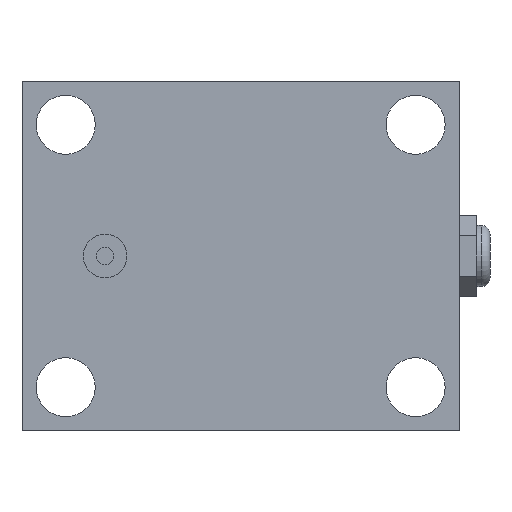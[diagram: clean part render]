
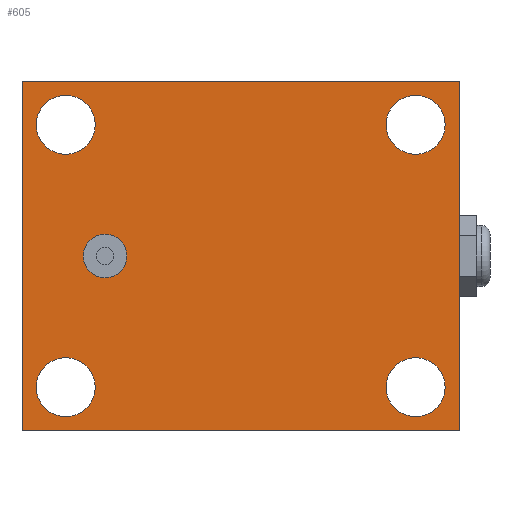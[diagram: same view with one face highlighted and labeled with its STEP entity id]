
A CAD part, front view. The second image highlights one B-rep face of the part: STEP entity #605.
In plain terms, the highlighted planar face has unit normal (0, -1, 0).
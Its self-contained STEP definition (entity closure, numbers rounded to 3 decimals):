
#13 = DIRECTION ( 'NONE',  ( 0., 0., 1. ) ) ;
#15 = EDGE_CURVE ( 'NONE', #697, #359, #1528, .T. ) ;
#24 = CIRCLE ( 'NONE', #483, 6.75 ) ;
#29 = CARTESIAN_POINT ( 'NONE',  ( -31., 0., 0. ) ) ;
#35 = DIRECTION ( 'NONE',  ( 0., 0., 1. ) ) ;
#50 = AXIS2_PLACEMENT_3D ( 'NONE', #1057, #409, #35 ) ;
#70 = EDGE_CURVE ( 'NONE', #955, #969, #1454, .T. ) ;
#77 = EDGE_CURVE ( 'NONE', #359, #1228, #1066, .T. ) ;
#78 = EDGE_LOOP ( 'NONE', ( #354, #1163 ) ) ;
#103 = AXIS2_PLACEMENT_3D ( 'NONE', #118, #1380, #1004 ) ;
#108 = CIRCLE ( 'NONE', #390, 5. ) ;
#118 = CARTESIAN_POINT ( 'NONE',  ( 40., 0., 30. ) ) ;
#121 = VERTEX_POINT ( 'NONE', #351 ) ;
#132 = AXIS2_PLACEMENT_3D ( 'NONE', #363, #498, #239 ) ;
#144 = EDGE_CURVE ( 'NONE', #1228, #1049, #610, .T. ) ;
#163 = DIRECTION ( 'NONE',  ( 0., 0., -1. ) ) ;
#175 = DIRECTION ( 'NONE',  ( 0., 1., 0. ) ) ;
#203 = CARTESIAN_POINT ( 'NONE',  ( -40., 0., 30. ) ) ;
#224 = CARTESIAN_POINT ( 'NONE',  ( -50., 0., 40. ) ) ;
#239 = DIRECTION ( 'NONE',  ( 0., 0., 1. ) ) ;
#258 = EDGE_LOOP ( 'NONE', ( #424, #1175 ) ) ;
#269 = CARTESIAN_POINT ( 'NONE',  ( -40., 0., -30. ) ) ;
#327 = FACE_BOUND ( 'NONE', #78, .T. ) ;
#333 = VERTEX_POINT ( 'NONE', #973 ) ;
#340 = CARTESIAN_POINT ( 'NONE',  ( 40., 0., 30. ) ) ;
#343 = DIRECTION ( 'NONE',  ( -1., 0., 0. ) ) ;
#351 = CARTESIAN_POINT ( 'NONE',  ( 40., 0., 36.75 ) ) ;
#354 = ORIENTED_EDGE ( 'NONE', *, *, #1086, .T. ) ;
#359 = VERTEX_POINT ( 'NONE', #1583 ) ;
#363 = CARTESIAN_POINT ( 'NONE',  ( 40., 0., -30. ) ) ;
#390 = AXIS2_PLACEMENT_3D ( 'NONE', #707, #1563, #828 ) ;
#402 = CARTESIAN_POINT ( 'NONE',  ( -31., 0., 5. ) ) ;
#409 = DIRECTION ( 'NONE',  ( 0., 1., 0. ) ) ;
#412 = DIRECTION ( 'NONE',  ( 0., 1., 0. ) ) ;
#419 = ORIENTED_EDGE ( 'NONE', *, *, #1263, .F. ) ;
#424 = ORIENTED_EDGE ( 'NONE', *, *, #439, .T. ) ;
#428 = CARTESIAN_POINT ( 'NONE',  ( 50., 0., -40. ) ) ;
#439 = EDGE_CURVE ( 'NONE', #1524, #888, #652, .T. ) ;
#441 = AXIS2_PLACEMENT_3D ( 'NONE', #686, #675, #1315 ) ;
#466 = ORIENTED_EDGE ( 'NONE', *, *, #843, .T. ) ;
#483 = AXIS2_PLACEMENT_3D ( 'NONE', #269, #412, #13 ) ;
#496 = CARTESIAN_POINT ( 'NONE',  ( 0., 0., 0. ) ) ;
#498 = DIRECTION ( 'NONE',  ( 0., 1., 0. ) ) ;
#502 = DIRECTION ( 'NONE',  ( 0., 0., 1. ) ) ;
#504 = CARTESIAN_POINT ( 'NONE',  ( -40., 0., -23.25 ) ) ;
#522 = CARTESIAN_POINT ( 'NONE',  ( -40., 0., 23.25 ) ) ;
#530 = VERTEX_POINT ( 'NONE', #504 ) ;
#539 = CARTESIAN_POINT ( 'NONE',  ( 50., 0., 40. ) ) ;
#576 = EDGE_CURVE ( 'NONE', #333, #530, #24, .T. ) ;
#585 = FACE_BOUND ( 'NONE', #1091, .T. ) ;
#600 = DIRECTION ( 'NONE',  ( 0., 0., -1. ) ) ;
#605 = ADVANCED_FACE ( 'NONE', ( #672, #857, #585, #327, #877, #1486 ), #858, .F. ) ;
#610 = LINE ( 'NONE', #736, #818 ) ;
#615 = CARTESIAN_POINT ( 'NONE',  ( 40., 0., -23.25 ) ) ;
#652 = CIRCLE ( 'NONE', #132, 6.75 ) ;
#658 = DIRECTION ( 'NONE',  ( 0., -1., 0. ) ) ;
#672 = FACE_BOUND ( 'NONE', #673, .T. ) ;
#673 = EDGE_LOOP ( 'NONE', ( #1151, #999 ) ) ;
#675 = DIRECTION ( 'NONE',  ( 0., 1., 0. ) ) ;
#679 = ORIENTED_EDGE ( 'NONE', *, *, #1475, .T. ) ;
#683 = CARTESIAN_POINT ( 'NONE',  ( -40., 0., 30. ) ) ;
#686 = CARTESIAN_POINT ( 'NONE',  ( 40., 0., -30. ) ) ;
#697 = VERTEX_POINT ( 'NONE', #539 ) ;
#704 = VERTEX_POINT ( 'NONE', #778 ) ;
#707 = CARTESIAN_POINT ( 'NONE',  ( -31., 0., 0. ) ) ;
#709 = LINE ( 'NONE', #224, #904 ) ;
#736 = CARTESIAN_POINT ( 'NONE',  ( -50., 0., -40. ) ) ;
#742 = CIRCLE ( 'NONE', #441, 6.75 ) ;
#778 = CARTESIAN_POINT ( 'NONE',  ( 40., 0., 23.25 ) ) ;
#818 = VECTOR ( 'NONE', #1495, 1000. ) ;
#828 = DIRECTION ( 'NONE',  ( 0., 0., -1. ) ) ;
#843 = EDGE_CURVE ( 'NONE', #530, #333, #1080, .T. ) ;
#844 = DIRECTION ( 'NONE',  ( 0., 1., 0. ) ) ;
#857 = FACE_BOUND ( 'NONE', #258, .T. ) ;
#858 = PLANE ( 'NONE',  #1093 ) ;
#877 = FACE_BOUND ( 'NONE', #1388, .T. ) ;
#888 = VERTEX_POINT ( 'NONE', #1428 ) ;
#890 = CARTESIAN_POINT ( 'NONE',  ( -31., 0., -5. ) ) ;
#904 = VECTOR ( 'NONE', #1136, 1000. ) ;
#955 = VERTEX_POINT ( 'NONE', #522 ) ;
#969 = VERTEX_POINT ( 'NONE', #1177 ) ;
#973 = CARTESIAN_POINT ( 'NONE',  ( -40., 0., -36.75 ) ) ;
#977 = EDGE_CURVE ( 'NONE', #1426, #1064, #1120, .T. ) ;
#999 = ORIENTED_EDGE ( 'NONE', *, *, #1210, .F. ) ;
#1004 = DIRECTION ( 'NONE',  ( 0., 0., 1. ) ) ;
#1049 = VERTEX_POINT ( 'NONE', #1190 ) ;
#1050 = ORIENTED_EDGE ( 'NONE', *, *, #576, .T. ) ;
#1057 = CARTESIAN_POINT ( 'NONE',  ( -40., 0., -30. ) ) ;
#1064 = VERTEX_POINT ( 'NONE', #402 ) ;
#1066 = LINE ( 'NONE', #1124, #1130 ) ;
#1080 = CIRCLE ( 'NONE', #50, 6.75 ) ;
#1086 = EDGE_CURVE ( 'NONE', #969, #955, #1591, .T. ) ;
#1091 = EDGE_LOOP ( 'NONE', ( #1577, #679 ) ) ;
#1093 = AXIS2_PLACEMENT_3D ( 'NONE', #496, #1259, #502 ) ;
#1106 = EDGE_CURVE ( 'NONE', #888, #1524, #742, .T. ) ;
#1116 = DIRECTION ( 'NONE',  ( 0., 1., 0. ) ) ;
#1120 = CIRCLE ( 'NONE', #1192, 5. ) ;
#1124 = CARTESIAN_POINT ( 'NONE',  ( -50., 0., -40. ) ) ;
#1130 = VECTOR ( 'NONE', #343, 1000. ) ;
#1136 = DIRECTION ( 'NONE',  ( 1., 0., 0. ) ) ;
#1151 = ORIENTED_EDGE ( 'NONE', *, *, #977, .F. ) ;
#1163 = ORIENTED_EDGE ( 'NONE', *, *, #70, .T. ) ;
#1171 = ORIENTED_EDGE ( 'NONE', *, *, #77, .F. ) ;
#1172 = EDGE_LOOP ( 'NONE', ( #1356, #419, #1304, #1171 ) ) ;
#1175 = ORIENTED_EDGE ( 'NONE', *, *, #1106, .T. ) ;
#1177 = CARTESIAN_POINT ( 'NONE',  ( -40., 0., 36.75 ) ) ;
#1190 = CARTESIAN_POINT ( 'NONE',  ( -50., 0., 40. ) ) ;
#1192 = AXIS2_PLACEMENT_3D ( 'NONE', #29, #658, #163 ) ;
#1199 = CIRCLE ( 'NONE', #103, 6.75 ) ;
#1210 = EDGE_CURVE ( 'NONE', #1064, #1426, #108, .T. ) ;
#1225 = CARTESIAN_POINT ( 'NONE',  ( -50., 0., -40. ) ) ;
#1228 = VERTEX_POINT ( 'NONE', #1225 ) ;
#1234 = DIRECTION ( 'NONE',  ( 0., 0., 1. ) ) ;
#1259 = DIRECTION ( 'NONE',  ( 0., 1., 0. ) ) ;
#1263 = EDGE_CURVE ( 'NONE', #1049, #697, #709, .T. ) ;
#1280 = AXIS2_PLACEMENT_3D ( 'NONE', #340, #844, #1234 ) ;
#1304 = ORIENTED_EDGE ( 'NONE', *, *, #144, .F. ) ;
#1315 = DIRECTION ( 'NONE',  ( 0., 0., 1. ) ) ;
#1356 = ORIENTED_EDGE ( 'NONE', *, *, #15, .F. ) ;
#1380 = DIRECTION ( 'NONE',  ( 0., 1., 0. ) ) ;
#1388 = EDGE_LOOP ( 'NONE', ( #466, #1050 ) ) ;
#1421 = DIRECTION ( 'NONE',  ( 0., 0., 1. ) ) ;
#1426 = VERTEX_POINT ( 'NONE', #890 ) ;
#1428 = CARTESIAN_POINT ( 'NONE',  ( 40., 0., -36.75 ) ) ;
#1437 = VECTOR ( 'NONE', #600, 1000. ) ;
#1442 = AXIS2_PLACEMENT_3D ( 'NONE', #203, #1116, #1588 ) ;
#1454 = CIRCLE ( 'NONE', #1442, 6.75 ) ;
#1475 = EDGE_CURVE ( 'NONE', #704, #121, #1545, .T. ) ;
#1486 = FACE_OUTER_BOUND ( 'NONE', #1172, .T. ) ;
#1495 = DIRECTION ( 'NONE',  ( 0., 0., 1. ) ) ;
#1505 = EDGE_CURVE ( 'NONE', #121, #704, #1199, .T. ) ;
#1524 = VERTEX_POINT ( 'NONE', #615 ) ;
#1528 = LINE ( 'NONE', #428, #1437 ) ;
#1537 = AXIS2_PLACEMENT_3D ( 'NONE', #683, #175, #1421 ) ;
#1545 = CIRCLE ( 'NONE', #1280, 6.75 ) ;
#1563 = DIRECTION ( 'NONE',  ( 0., -1., 0. ) ) ;
#1577 = ORIENTED_EDGE ( 'NONE', *, *, #1505, .T. ) ;
#1583 = CARTESIAN_POINT ( 'NONE',  ( 50., 0., -40. ) ) ;
#1588 = DIRECTION ( 'NONE',  ( 0., 0., 1. ) ) ;
#1591 = CIRCLE ( 'NONE', #1537, 6.75 ) ;
